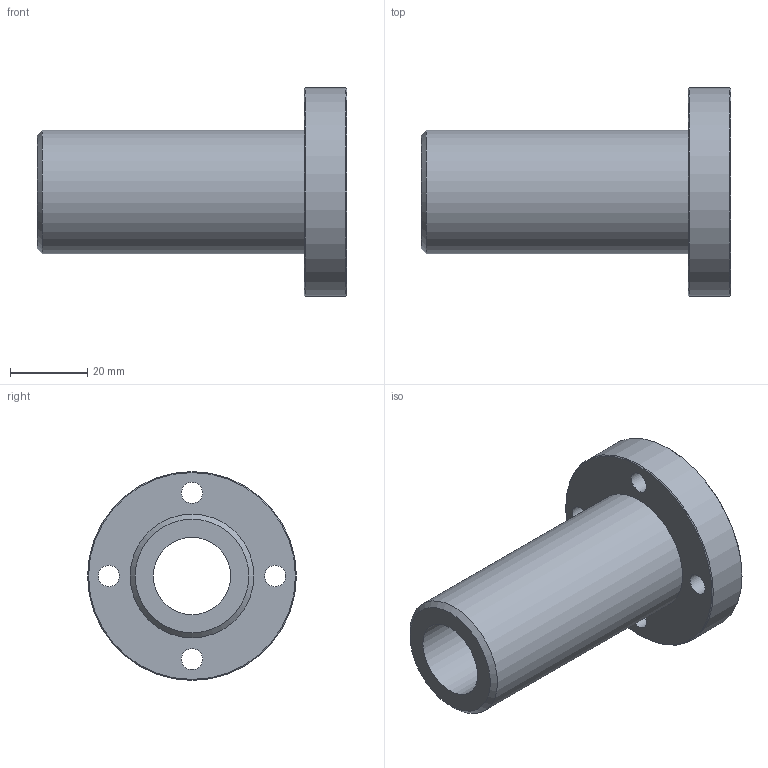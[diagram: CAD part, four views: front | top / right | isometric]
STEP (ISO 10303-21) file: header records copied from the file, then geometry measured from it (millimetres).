
FILE_DESCRIPTION(('STEP AP203'),'1');
FILE_NAME('//192.168.1.1/share/s-4 技術開発/s-4-4_CAD/s-4-4-3_見直し済み/PBC LINEAR修正済み/DFPJ/DFPJ_TOP/DFPJR/DFPJR20.step','2022-03-24T05:38:12',(' '),(' '),'Spatial InterOp 3D',' ',' ');
FILE_SCHEMA(('CONFIG_CONTROL_DESIGN'));
Length unit declared in the file: millimetre
Products named in the file (1): 1
Bounding box: 80 x 54 x 54 mm (x, y, z)
Volume: 53600.7 mm3; surface area: 18446.5 mm2
Topology: 1 solids, 1 shells, 21 faces, 45 edges, 31 vertices
Faces by surface type: cylinder 11, plane 7, cone 3
Full cylindrical faces by diameter (mm): 5.5 x4, 9 x4, 20 x1, 32 x1, 54 x1
Entity records: 528 total; most frequent: DIRECTION 94, CARTESIAN_POINT 72, EDGE_LOOP 50, ORIENTED_EDGE 50, AXIS2_PLACEMENT_3D 47, FACE_OUTER_BOUND 32, EDGE_CURVE 25, VERTEX_POINT 25
